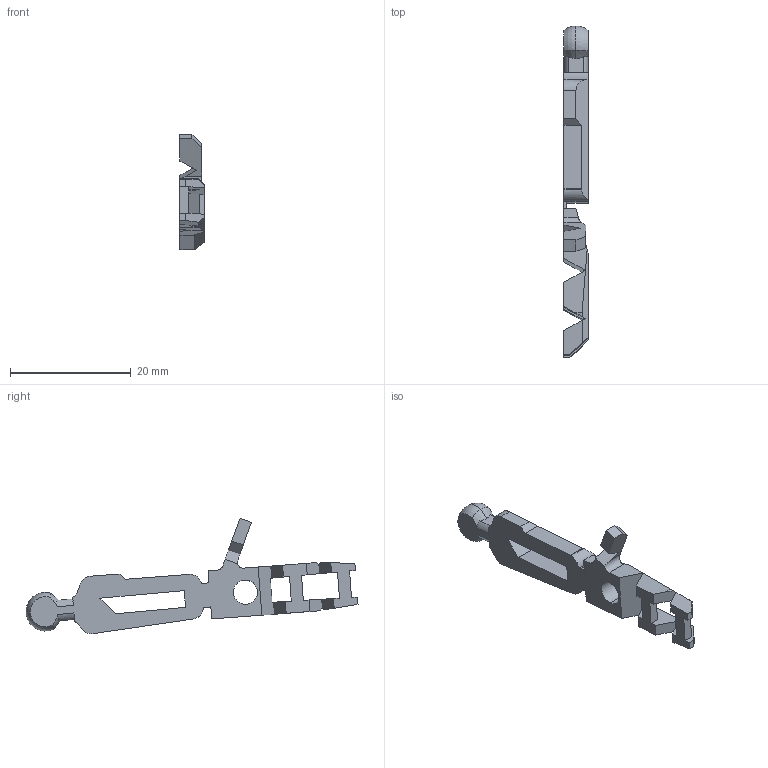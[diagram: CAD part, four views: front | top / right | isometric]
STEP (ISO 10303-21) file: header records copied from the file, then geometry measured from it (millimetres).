
FILE_DESCRIPTION (( 'STEP AP214' ), '1' );
FILE_NAME ('B1-arm-forearm-L.step', '2023-08-03T13:49:35', ( '' ), ( '' ), 'SwSTEP 2.0', 'SolidWorks 2020', '' );
FILE_SCHEMA (( 'AUTOMOTIVE_DESIGN' ));
Length unit declared in the file: millimetre
Products named in the file (1): B1-arm-forearm-L
Bounding box: 4 x 55.02 x 19.13 mm (x, y, z)
Volume: 1037.2 mm3; surface area: 1410.9 mm2
Topology: 1 solids, 1 shells, 97 faces, 290 edges, 190 vertices
Faces by surface type: plane 70, cylinder 18, cone 7, sphere 2
Entity records: 3308 total; most frequent: CARTESIAN_POINT 692, ORIENTED_EDGE 580, DIRECTION 495, EDGE_CURVE 290, LINE 217, VECTOR 217, VERTEX_POINT 190, AXIS2_PLACEMENT_3D 139
